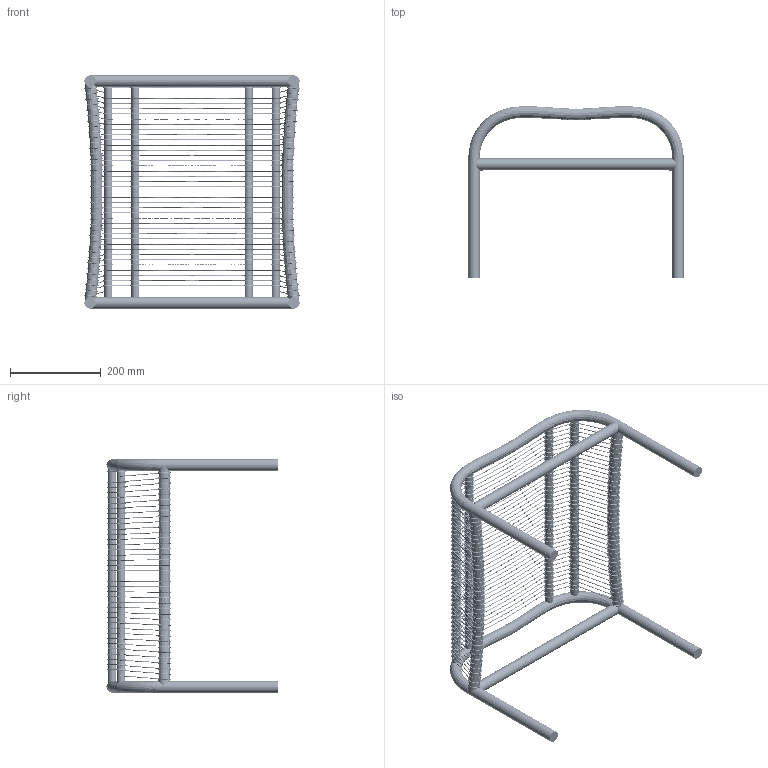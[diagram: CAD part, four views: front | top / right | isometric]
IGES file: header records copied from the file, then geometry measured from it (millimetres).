
Global section: file name: VincentSheppard_LoopFootrest; native system: unknown; preprocessor: unknown; author: ict@vincentsheppard.com; organization: unknown; date: 20180524.153506; units: millimetre
Bounding box: 475.3 x 377.8 x 515 mm (x, y, z)
Volume: 2620590.4 mm3; surface area: 700245 mm2
Topology: 508 solids, 508 shells, 1062 faces, 1317 edges, 793 vertices
Faces by surface type: bspline 1062
